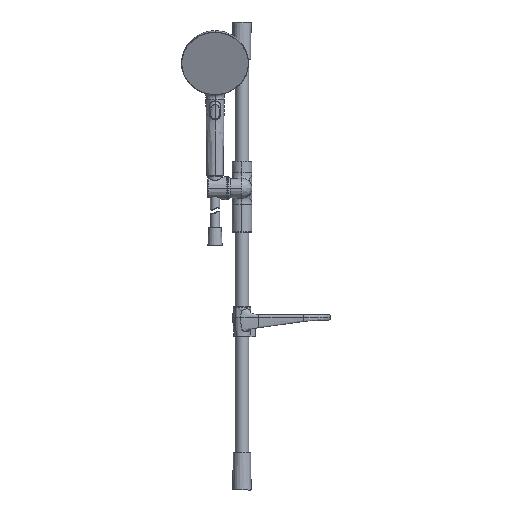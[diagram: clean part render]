
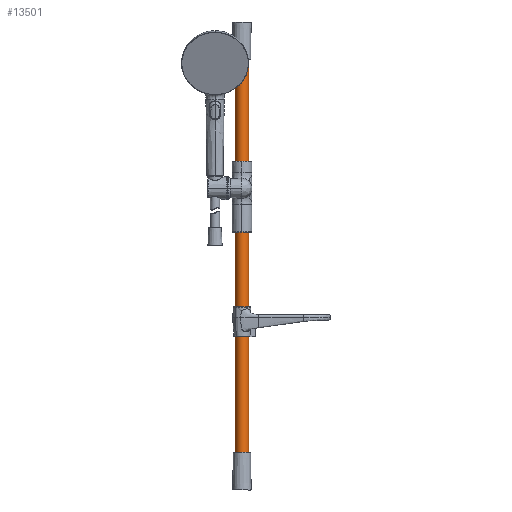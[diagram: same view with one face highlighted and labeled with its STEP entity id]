
A CAD part, top view. The second image highlights one B-rep face of the part: STEP entity #13501.
In plain terms, the highlighted cylindrical face has radius 11 mm (diameter 22 mm), a partial arc.
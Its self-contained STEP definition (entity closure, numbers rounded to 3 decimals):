
#1341 = VERTEX_POINT ( 'NONE', #28966 ) ;
#1589 = CIRCLE ( 'NONE', #40327, 11. ) ;
#2482 = EDGE_CURVE ( 'NONE', #20636, #1341, #1589, .T. ) ;
#2670 = CARTESIAN_POINT ( 'NONE',  ( 0., -59.569, 0. ) ) ;
#4595 = CARTESIAN_POINT ( 'NONE',  ( 0., 704.431, 0. ) ) ;
#5091 = EDGE_LOOP ( 'NONE', ( #27887, #7317, #20989, #12342 ) ) ;
#5119 = CARTESIAN_POINT ( 'NONE',  ( 11., -59.569, 0. ) ) ;
#5970 = AXIS2_PLACEMENT_3D ( 'NONE', #2670, #20143, #32435 ) ;
#7317 = ORIENTED_EDGE ( 'NONE', *, *, #2482, .T. ) ;
#11994 = AXIS2_PLACEMENT_3D ( 'NONE', #4595, #51689, #22464 ) ;
#12342 = ORIENTED_EDGE ( 'NONE', *, *, #16871, .T. ) ;
#12671 = VERTEX_POINT ( 'NONE', #13405 ) ;
#13405 = CARTESIAN_POINT ( 'NONE',  ( -11., -59.569, 0. ) ) ;
#13501 = ADVANCED_FACE ( 'NONE', ( #53979 ), #39998, .T. ) ;
#16871 = EDGE_CURVE ( 'NONE', #12671, #48834, #43974, .T. ) ;
#17958 = EDGE_CURVE ( 'NONE', #20636, #48834, #45218, .T. ) ;
#20143 = DIRECTION ( 'NONE',  ( 0., 1., 0. ) ) ;
#20636 = VERTEX_POINT ( 'NONE', #46566 ) ;
#20989 = ORIENTED_EDGE ( 'NONE', *, *, #44578, .T. ) ;
#21881 = CARTESIAN_POINT ( 'NONE',  ( 0., 704.431, 0. ) ) ;
#22464 = DIRECTION ( 'NONE',  ( -1., 0., 0. ) ) ;
#22986 = LINE ( 'NONE', #30702, #47672 ) ;
#25272 = VECTOR ( 'NONE', #40552, 1000. ) ;
#26164 = DIRECTION ( 'NONE',  ( 0., -1., 0. ) ) ;
#26339 = DIRECTION ( 'NONE',  ( 0., 0., 1. ) ) ;
#27887 = ORIENTED_EDGE ( 'NONE', *, *, #17958, .F. ) ;
#28966 = CARTESIAN_POINT ( 'NONE',  ( -11., 704.431, 0. ) ) ;
#30702 = CARTESIAN_POINT ( 'NONE',  ( -11., 704.431, 0. ) ) ;
#32373 = CARTESIAN_POINT ( 'NONE',  ( 11., 704.431, 0. ) ) ;
#32435 = DIRECTION ( 'NONE',  ( 1., 0., 0. ) ) ;
#34809 = DIRECTION ( 'NONE',  ( 0., -1., 0. ) ) ;
#39998 = CYLINDRICAL_SURFACE ( 'NONE', #11994, 11. ) ;
#40327 = AXIS2_PLACEMENT_3D ( 'NONE', #21881, #26164, #26339 ) ;
#40552 = DIRECTION ( 'NONE',  ( 0., -1., 0. ) ) ;
#43974 = CIRCLE ( 'NONE', #5970, 11. ) ;
#44578 = EDGE_CURVE ( 'NONE', #1341, #12671, #22986, .T. ) ;
#45218 = LINE ( 'NONE', #32373, #25272 ) ;
#46566 = CARTESIAN_POINT ( 'NONE',  ( 11., 704.431, 0. ) ) ;
#47672 = VECTOR ( 'NONE', #34809, 1000. ) ;
#48834 = VERTEX_POINT ( 'NONE', #5119 ) ;
#51689 = DIRECTION ( 'NONE',  ( 0., -1., 0. ) ) ;
#53979 = FACE_OUTER_BOUND ( 'NONE', #5091, .T. ) ;
